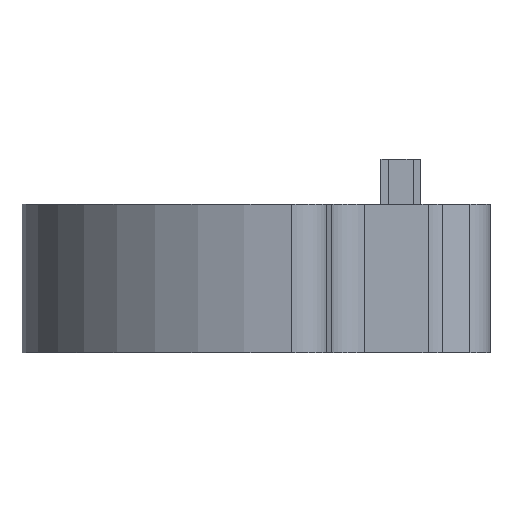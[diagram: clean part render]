
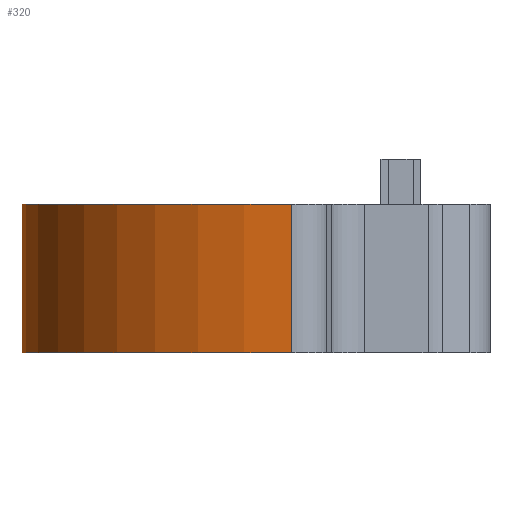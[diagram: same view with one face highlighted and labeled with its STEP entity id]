
A CAD part, left-side view. The second image highlights one B-rep face of the part: STEP entity #320.
In plain terms, the highlighted cylindrical face has radius 11.656 mm (diameter 23.312 mm), a partial arc.
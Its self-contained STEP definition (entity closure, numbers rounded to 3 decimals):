
#39 = DIRECTION ( 'NONE',  ( 0., 0., -1. ) ) ;
#78 = ORIENTED_EDGE ( 'NONE', *, *, #378, .F. ) ;
#146 = CARTESIAN_POINT ( 'NONE',  ( 11.63, 0.77, 6. ) ) ;
#167 = EDGE_CURVE ( 'NONE', #772, #954, #1269, .T. ) ;
#194 = DIRECTION ( 'NONE',  ( -1., 0., 0. ) ) ;
#320 = ADVANCED_FACE ( 'NONE', ( #824 ), #1071, .T. ) ;
#345 = LINE ( 'NONE', #1096, #1220 ) ;
#378 = EDGE_CURVE ( 'NONE', #1608, #1180, #345, .T. ) ;
#413 = AXIS2_PLACEMENT_3D ( 'NONE', #432, #1158, #416 ) ;
#416 = DIRECTION ( 'NONE',  ( 1., 0., 0. ) ) ;
#425 = CARTESIAN_POINT ( 'NONE',  ( 0., 0., 6. ) ) ;
#432 = CARTESIAN_POINT ( 'NONE',  ( 0., 0., 6. ) ) ;
#441 = EDGE_LOOP ( 'NONE', ( #975, #78, #491, #1585 ) ) ;
#471 = VECTOR ( 'NONE', #39, 1000. ) ;
#491 = ORIENTED_EDGE ( 'NONE', *, *, #713, .F. ) ;
#553 = DIRECTION ( 'NONE',  ( 0., 0., -1. ) ) ;
#694 = EDGE_CURVE ( 'NONE', #954, #1180, #1114, .T. ) ;
#713 = EDGE_CURVE ( 'NONE', #772, #1608, #1467, .T. ) ;
#772 = VERTEX_POINT ( 'NONE', #1451 ) ;
#824 = FACE_OUTER_BOUND ( 'NONE', #441, .T. ) ;
#902 = AXIS2_PLACEMENT_3D ( 'NONE', #1047, #1181, #1311 ) ;
#954 = VERTEX_POINT ( 'NONE', #1400 ) ;
#975 = ORIENTED_EDGE ( 'NONE', *, *, #694, .T. ) ;
#1047 = CARTESIAN_POINT ( 'NONE',  ( 0., 0., 0. ) ) ;
#1071 = CYLINDRICAL_SURFACE ( 'NONE', #1273, 11.656 ) ;
#1096 = CARTESIAN_POINT ( 'NONE',  ( -11.63, 0.77, 6. ) ) ;
#1114 = CIRCLE ( 'NONE', #902, 11.656 ) ;
#1158 = DIRECTION ( 'NONE',  ( 0., 0., 1. ) ) ;
#1180 = VERTEX_POINT ( 'NONE', #1212 ) ;
#1181 = DIRECTION ( 'NONE',  ( 0., 0., 1. ) ) ;
#1212 = CARTESIAN_POINT ( 'NONE',  ( -11.63, 0.77, 0. ) ) ;
#1220 = VECTOR ( 'NONE', #1476, 1000. ) ;
#1269 = LINE ( 'NONE', #146, #471 ) ;
#1273 = AXIS2_PLACEMENT_3D ( 'NONE', #425, #553, #194 ) ;
#1311 = DIRECTION ( 'NONE',  ( 1., 0., 0. ) ) ;
#1400 = CARTESIAN_POINT ( 'NONE',  ( 11.63, 0.77, 0. ) ) ;
#1451 = CARTESIAN_POINT ( 'NONE',  ( 11.63, 0.77, 6. ) ) ;
#1455 = CARTESIAN_POINT ( 'NONE',  ( -11.63, 0.77, 6. ) ) ;
#1467 = CIRCLE ( 'NONE', #413, 11.656 ) ;
#1476 = DIRECTION ( 'NONE',  ( 0., 0., -1. ) ) ;
#1585 = ORIENTED_EDGE ( 'NONE', *, *, #167, .T. ) ;
#1608 = VERTEX_POINT ( 'NONE', #1455 ) ;
